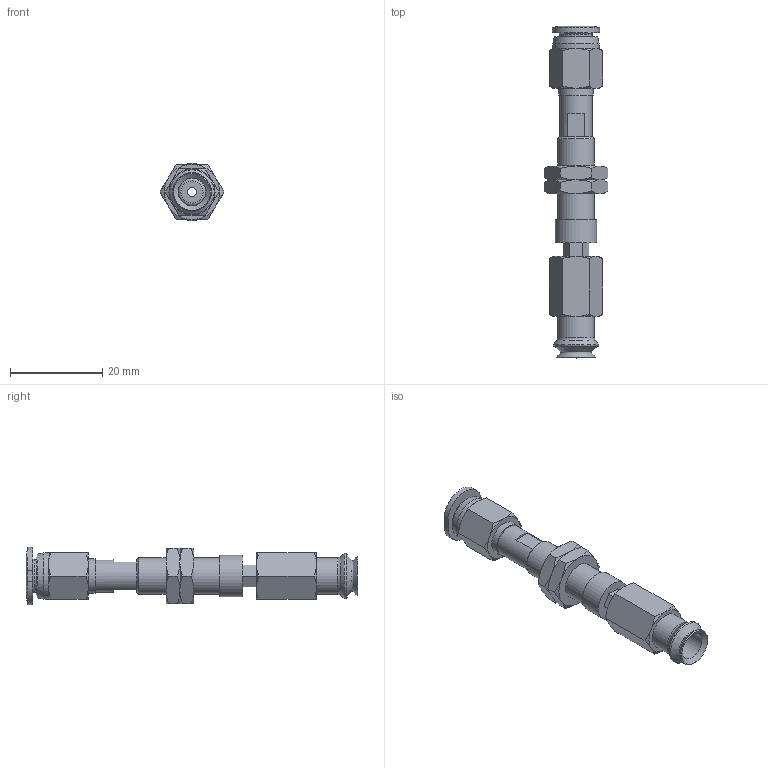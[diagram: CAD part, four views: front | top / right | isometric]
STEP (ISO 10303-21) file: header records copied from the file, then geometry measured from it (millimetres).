
FILE_DESCRIPTION(('STEP AP203'),'1');
FILE_NAME('-O.stp','2025-08-27T06:26:08',(' '),(' '),'Spatial InterOp 3D',' ',' ');
FILE_SCHEMA(('CONFIG_CONTROL_DESIGN'));
Length unit declared in the file: millimetre
Products named in the file (7): BNABPJTH-8-3-※-O; ADAPTER; NAPATH-10A-3--M; NAPJH-8-3-NUT; NAPJTH-8-3-FBODY; BPJG-8-※; PC-C_06-M5
Assembly tree (7 placements, depth 2):
  BNABPJTH-8-3-※-O
    ADAPTER
    NAPATH-10A-3--M
    NAPJH-8-3-NUT  x2
    NAPJTH-8-3-FBODY
    BPJG-8-※
    PC-C_06-M5
Bounding box: 13.86 x 71.98 x 12.4 mm (x, y, z)
Volume: 3337.5 mm3; surface area: 5062.7 mm2
Topology: 6 solids, 9 shells, 171 faces, 362 edges, 219 vertices
Faces by surface type: plane 68, cone 63, cylinder 22, torus 11, bspline 4, revolution 3
Full cylindrical faces by diameter (mm): 2 x2, 4 x4, 4.134 x1, 5 x1, 6 x2, 7 x2, 7.188 x2, 7.4 x1, 8 x2, 8.2 x1, 9 x1, 10 x1
Entity records: 4432 total; most frequent: CARTESIAN_POINT 1235, DIRECTION 587, ORIENTED_EDGE 516, EDGE_CURVE 260, AXIS2_PLACEMENT_3D 254, EDGE_LOOP 216, VERTEX_POINT 182, FACE_OUTER_BOUND 118
